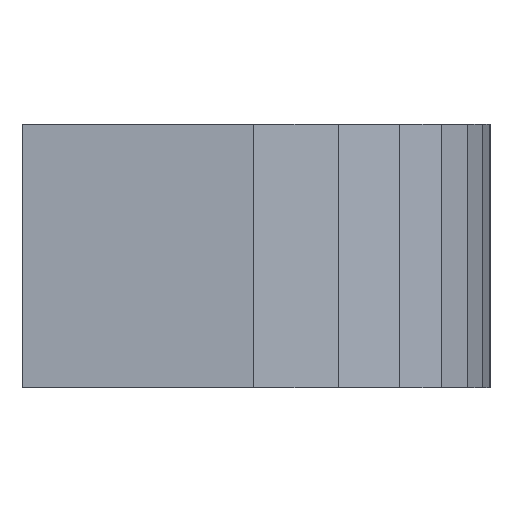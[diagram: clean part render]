
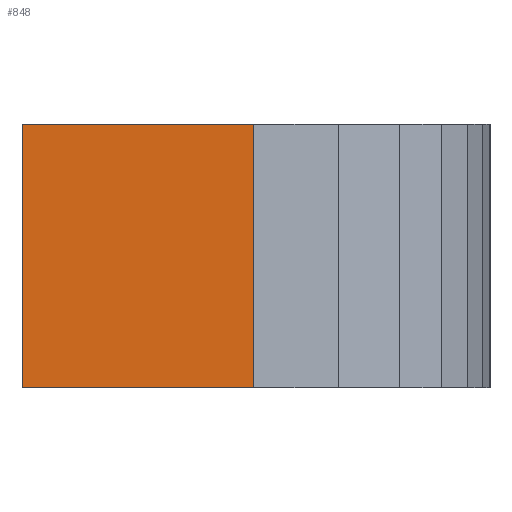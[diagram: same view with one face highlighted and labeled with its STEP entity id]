
A CAD part, front view. The second image highlights one B-rep face of the part: STEP entity #848.
In plain terms, the highlighted planar face has unit normal (0, -1, 0).
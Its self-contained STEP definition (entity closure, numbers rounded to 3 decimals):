
#9 = EDGE_CURVE ( 'NONE', #1096, #1741, #43, .T. ) ;
#43 = LINE ( 'NONE', #210, #1487 ) ;
#60 = CARTESIAN_POINT ( 'NONE',  ( 0.734, 0., 0. ) ) ;
#81 = DIRECTION ( 'NONE',  ( 1., 0., 0. ) ) ;
#132 = VECTOR ( 'NONE', #2012, 1000. ) ;
#201 = EDGE_CURVE ( 'NONE', #617, #1700, #576, .T. ) ;
#210 = CARTESIAN_POINT ( 'NONE',  ( 9.525, 0., -10. ) ) ;
#398 = DIRECTION ( 'NONE',  ( 1., 0., 0. ) ) ;
#408 = LINE ( 'NONE', #60, #1497 ) ;
#412 = FACE_OUTER_BOUND ( 'NONE', #1489, .T. ) ;
#576 = LINE ( 'NONE', #1539, #132 ) ;
#606 = PLANE ( 'NONE',  #1245 ) ;
#617 = VERTEX_POINT ( 'NONE', #855 ) ;
#728 = VECTOR ( 'NONE', #398, 1000. ) ;
#829 = CARTESIAN_POINT ( 'NONE',  ( 9.525, 0., -10. ) ) ;
#848 = ADVANCED_FACE ( 'NONE', ( #412 ), #606, .T. ) ;
#855 = CARTESIAN_POINT ( 'NONE',  ( 0.734, 0., -10. ) ) ;
#1046 = CARTESIAN_POINT ( 'NONE',  ( 0.734, 0., 0. ) ) ;
#1077 = CARTESIAN_POINT ( 'NONE',  ( 0.734, 0., -10. ) ) ;
#1095 = DIRECTION ( 'NONE',  ( 1., 0., 0. ) ) ;
#1096 = VERTEX_POINT ( 'NONE', #829 ) ;
#1152 = EDGE_CURVE ( 'NONE', #1700, #1741, #408, .T. ) ;
#1245 = AXIS2_PLACEMENT_3D ( 'NONE', #1864, #1566, #1095 ) ;
#1273 = EDGE_CURVE ( 'NONE', #617, #1096, #1374, .T. ) ;
#1374 = LINE ( 'NONE', #1077, #728 ) ;
#1487 = VECTOR ( 'NONE', #1966, 1000. ) ;
#1489 = EDGE_LOOP ( 'NONE', ( #2073, #1522, #1880, #2082 ) ) ;
#1494 = CARTESIAN_POINT ( 'NONE',  ( 9.525, 0., 0. ) ) ;
#1497 = VECTOR ( 'NONE', #81, 1000. ) ;
#1522 = ORIENTED_EDGE ( 'NONE', *, *, #201, .F. ) ;
#1539 = CARTESIAN_POINT ( 'NONE',  ( 0.734, 0., -10. ) ) ;
#1566 = DIRECTION ( 'NONE',  ( 0., -1., 0. ) ) ;
#1700 = VERTEX_POINT ( 'NONE', #1046 ) ;
#1741 = VERTEX_POINT ( 'NONE', #1494 ) ;
#1864 = CARTESIAN_POINT ( 'NONE',  ( 0.734, 0., -10. ) ) ;
#1880 = ORIENTED_EDGE ( 'NONE', *, *, #1273, .T. ) ;
#1966 = DIRECTION ( 'NONE',  ( 0., 0., 1. ) ) ;
#2012 = DIRECTION ( 'NONE',  ( 0., 0., 1. ) ) ;
#2073 = ORIENTED_EDGE ( 'NONE', *, *, #1152, .F. ) ;
#2082 = ORIENTED_EDGE ( 'NONE', *, *, #9, .T. ) ;
